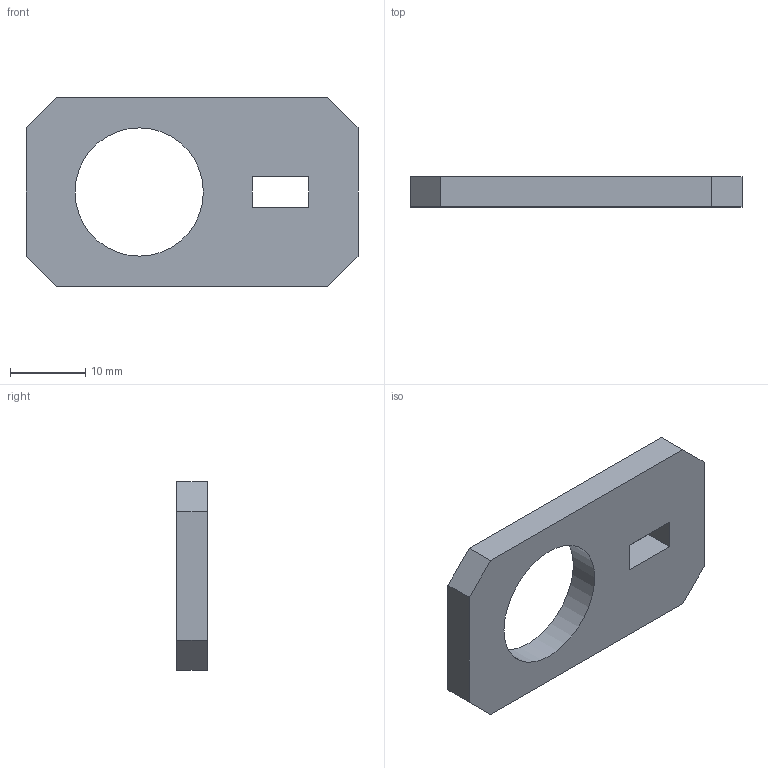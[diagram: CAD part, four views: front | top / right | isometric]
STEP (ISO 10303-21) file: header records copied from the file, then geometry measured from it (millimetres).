
FILE_DESCRIPTION(('FreeCAD Model'),'2;1');
FILE_NAME('Open CASCADE Shape Model','2024-06-26T11:40:51',('FreeCAD'),( 'FreeCAD'),'Open CASCADE STEP processor 7.6','FreeCAD','Unknown');
FILE_SCHEMA(('AUTOMOTIVE_DESIGN { 1 0 10303 214 1 1 1 1 }'));
Length unit declared in the file: millimetre
Products named in the file (1): Open CASCADE STEP translator 7.6 18
Bounding box: 44 x 4 x 25 mm (x, y, z)
Volume: 3244.1 mm3; surface area: 2442.2 mm2
Topology: 1 solids, 1 shells, 15 faces, 39 edges, 26 vertices
Faces by surface type: plane 14, cylinder 1
Full cylindrical faces by diameter (mm): 17 x1
Entity records: 473 total; most frequent: CARTESIAN_POINT 81, ORIENTED_EDGE 78, DIRECTION 73, EDGE_CURVE 39, LINE 37, VECTOR 37, VERTEX_POINT 26, FACE_BOUND 19
